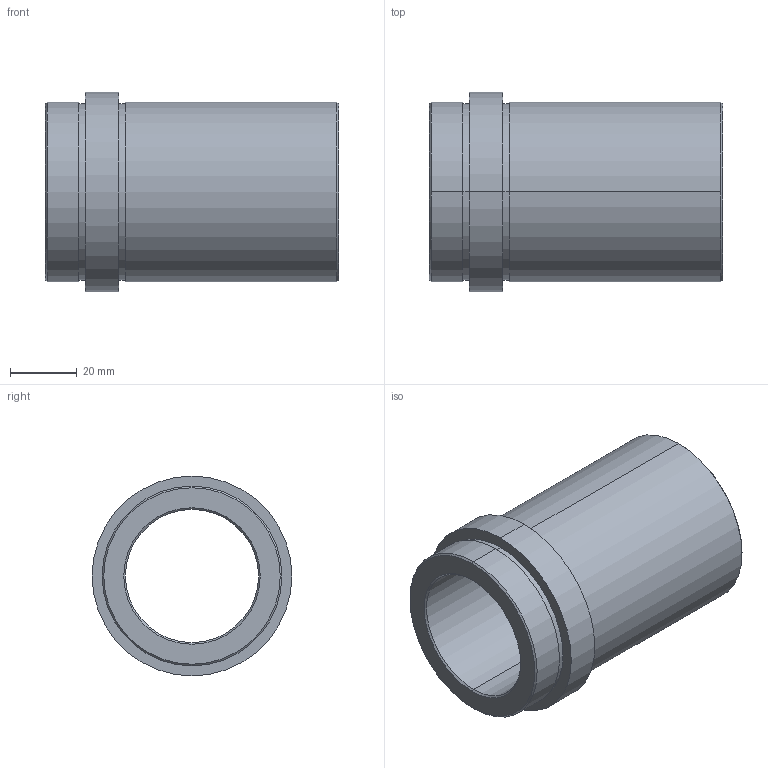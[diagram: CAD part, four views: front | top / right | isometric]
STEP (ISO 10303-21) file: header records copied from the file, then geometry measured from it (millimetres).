
FILE_DESCRIPTION( ( 'STEP AP203' ), '1' );
FILE_NAME( 'C:/Projects/D21 - 40x76.step', '2002-12-31T23:06:01', ( ' ' ), ( ' ' ), 'XStep 1.0', ' ', ' ' );
FILE_SCHEMA( ( 'CONFIG_CONTROL_DESIGN' ) );
Length unit declared in the file: metre
Products named in the file (1): 1
Bounding box: 88 x 60 x 60 mm (x, y, z)
Volume: 95917.5 mm3; surface area: 29467.9 mm2
Topology: 1 solids, 1 shells, 26 faces, 52 edges, 32 vertices
Faces by surface type: revolution 20, bspline 6
Entity records: 773 total; most frequent: CARTESIAN_POINT 169, DIRECTION 106, ORIENTED_EDGE 104, EDGE_CURVE 52, AXIS2_PLACEMENT_3D 33, EDGE_LOOP 32, VERTEX_POINT 32, CIRCLE 32
